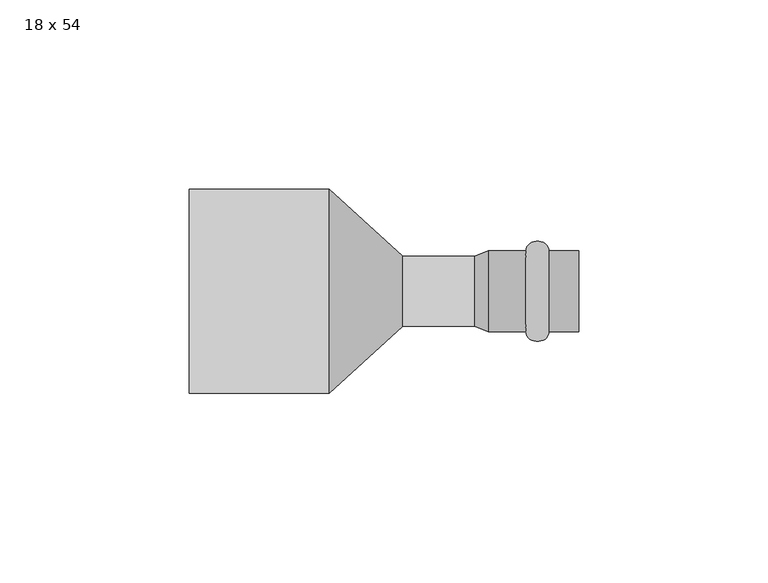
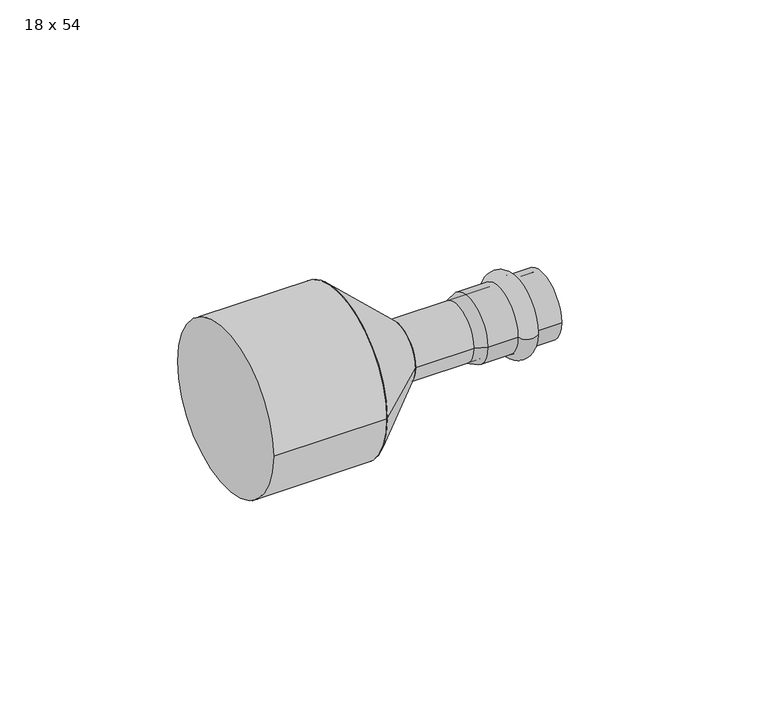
"""IFC4 building model written with IfcOpenShell, lengths in millimetres: pipe fitting geometry, РЕХАУ_Пресс Вставка переходная : 18 x 54."""

from ifc_helpers import new_model, si_unit, point, frame, origin, origin_2d, place, context, project, spatial, polyline, circle_curve, ellipse_curve, trimmed, segment, composite_curve, outline, extrude, source, transform, mapped, element, save
from ifc_brep_helpers import plane_surface, cylinder_surface, revolved_surface, advanced_brep


def pipe_fitting_18_x_54_be309751(model_context):
    return source(origin(), model_context, "Body", "SolidModel", [
        advanced_brep(
        [(95.1, 10.75, 0.0), (95.1, -10.75, 0.0), (89.0, -10.75, 0.0), (89.0, 10.75, 0.0)],
        [
            (0, 1, circle_curve(frame((95.1, 0.0, 0.0), z_axis=(1.0, 0.0, 0.0), x_axis=(0.0, -1.0, 0.0)), 10.75)),
            (1, 2),
            (2, 3, circle_curve(frame((89.0, 0.0, 0.0), z_axis=(-1.0, 0.0, 0.0), x_axis=(0.0, -1.0, 0.0)), 10.75)),
            (3, 0),
            (1, 0, circle_curve(frame((95.1, 0.0, 0.0), z_axis=(1.0, 0.0, 0.0), x_axis=(0.0, -1.0, 0.0)), 10.75)),
            (3, 2, circle_curve(frame((89.0, 0.0, 0.0), z_axis=(-1.0, 0.0, 0.0), x_axis=(0.0, -1.0, 0.0)), 10.75)),
            (2, 1, ellipse_curve(frame((92.05, -10.75, 0.0), z_axis=(0.0, 0.0, 1.0), x_axis=(1.0, 0.0, 0.0)), 3.05, 2.5)),
            (0, 3, ellipse_curve(frame((92.05, 10.75, 0.0), z_axis=(0.0, 0.0, 1.0), x_axis=(1.0, 0.0, 0.0)), 3.05, 2.5)),
        ],
        [
            revolved_surface(polyline([(89.0, -10.75, 0.0), (95.1, -10.75, 0.0)]), (76.0, 0.0, 0.0), (-1.0, 0.0, 0.0)),
            revolved_surface(trimmed(ellipse_curve(frame((92.05, -10.75, 0.0), z_axis=(0.0, 0.0, -1.0), x_axis=(1.0, 0.0, 0.0)), 3.05, 2.5), [point((95.1, -10.75, 0.0))], [point((89.0, -10.75, 0.0))], True, "CARTESIAN"), (76.0, 0.0, 0.0), (-1.0, 0.0, 0.0)),
        ],
        [
            (0, [[1, 2, 3, 4]]),
            (0, [[5, -4, 6, -2]]),
            (1, [[-3, 7, -1, 8]]),
            (1, [[-6, -8, -5, -7]]),
        ],
    ),
        advanced_brep(
        [(75.4662215, 9.25, 0.0), (75.4662215, -9.25, 0.0), (79.0, -10.75, 0.0), (79.0, 10.75, 0.0), (103.0, 9.25, 0.0), (103.0, -9.25, 0.0), (103.0, 10.75, 0.0), (103.0, -10.75, 0.0)],
        [
            (0, 1, circle_curve(frame((75.4662215, 0.0, 0.0), z_axis=(1.0, 0.0, 0.0), x_axis=(0.0, -1.0, 0.0)), 9.25)),
            (1, 2),
            (2, 3, circle_curve(frame((79.0, 0.0, 0.0), z_axis=(-1.0, 0.0, 0.0), x_axis=(0.0, -1.0, 0.0)), 10.75)),
            (3, 0),
            (1, 0, circle_curve(frame((75.4662215, 0.0, 0.0), z_axis=(1.0, 0.0, 0.0), x_axis=(0.0, -1.0, 0.0)), 9.25)),
            (3, 2, circle_curve(frame((79.0, 0.0, 0.0), z_axis=(-1.0, 0.0, 0.0), x_axis=(0.0, -1.0, 0.0)), 10.75)),
            (4, 5, circle_curve(frame((103.0, 0.0, 0.0), z_axis=(1.0, 0.0, 0.0), x_axis=(0.0, -1.0, 0.0)), 9.25)),
            (5, 1),
            (0, 4),
            (5, 4, circle_curve(frame((103.0, 0.0, 0.0), z_axis=(1.0, 0.0, 0.0), x_axis=(0.0, -1.0, 0.0)), 9.25)),
            (6, 7, circle_curve(frame((103.0, 0.0, 0.0), z_axis=(1.0, 0.0, 0.0), x_axis=(0.0, -1.0, 0.0)), 10.75)),
            (7, 5),
            (4, 6),
            (7, 6, circle_curve(frame((103.0, 0.0, 0.0), z_axis=(1.0, 0.0, 0.0), x_axis=(0.0, -1.0, 0.0)), 10.75)),
            (2, 7),
            (6, 3),
        ],
        [
            revolved_surface(polyline([(79.0, -10.75, 0.0), (75.4662215, -9.25, 0.0)]), (76.0, 0.0, 0.0), (-1.0, 0.0, 0.0)),
            revolved_surface(polyline([(75.4662215, -9.25, 0.0), (103.0, -9.25, 0.0)]), (76.0, 0.0, 0.0), (-1.0, 0.0, 0.0)),
            plane_surface(frame((103.0, 0.0, 0.0), z_axis=(1.0, 0.0, 0.0), x_axis=(0.0, -1.0, 0.0))),
            cylinder_surface(frame((76.0, 0.0, 0.0), z_axis=(-1.0, 0.0, 0.0), x_axis=(0.0, -1.0, 0.0)), 10.75),
        ],
        [
            (0, [[1, 2, 3, 4]]),
            (0, [[5, -4, 6, -2]]),
            (1, [[7, 8, -1, 9]]),
            (1, [[10, -9, -5, -8]]),
            (2, [[11, 12, -7, 13]]),
            (2, [[14, -13, -10, -12]]),
            (3, [[-3, 15, -11, 16]]),
            (3, [[-6, -16, -14, -15]]),
        ],
    ),
        extrude(outline(composite_curve([segment(trimmed(circle_curve(origin_2d(), 9.25), [point((-9.25, 0.0))], [point((9.25, 0.0))], False, "CARTESIAN"), True, "CONTINUOUS"), segment(trimmed(circle_curve(origin_2d(), 9.25), [point((9.25, 0.0))], [point((-9.25, 0.0))], False, "CARTESIAN"), True, "CONTINUOUS")], self_intersect=False)), frame((56.45, 0.0, 0.0), z_axis=(1.0, 0.0, 0.0), x_axis=(0.0, 1.0, 0.0)), (0.0, 0.0, 1.0), 22.55),
        advanced_brep(
        [(56.45, -9.25, 0.0), (56.45, 9.25, 0.0), (37.0, -27.0, 0.0), (37.0, 27.0, 0.0)],
        [
            (0, 1, circle_curve(frame((56.45, 0.0, 0.0), z_axis=(1.0, 0.0, 0.0), x_axis=(0.0, -1.0, 0.0)), 9.25)),
            (1, 0, circle_curve(frame((56.45, 0.0, 0.0), z_axis=(1.0, 0.0, 0.0), x_axis=(0.0, 1.0, 0.0)), 9.25)),
            (2, 3, circle_curve(frame((37.0, 0.0, 0.0), z_axis=(-1.0, 0.0, 0.0), x_axis=(0.0, 1.0, 0.0)), 27.0)),
            (3, 2, circle_curve(frame((37.0, 0.0, 0.0), z_axis=(-1.0, 0.0, 0.0), x_axis=(0.0, -1.0, 0.0)), 27.0)),
            (3, 1),
            (0, 2),
        ],
        [
            plane_surface(frame((56.45, 0.0, 0.0), z_axis=(1.0, 0.0, 0.0), x_axis=(0.0, 0.0, -1.0))),
            plane_surface(frame((37.0, 0.0, 0.0), z_axis=(-1.0, 0.0, 0.0), x_axis=(0.0, 0.0, -1.0))),
            revolved_surface(polyline([(56.45, -9.25000000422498, 0.0), (37.0, -27.0, 0.0)]), (66.5859155, 0.0, 0.0), (-1.0, 0.0, 0.0)),
            revolved_surface(polyline([(56.45, 9.25000000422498, 0.0), (37.0, 27.0, 0.0)]), (66.5859155, 0.0, 0.0), (-1.0, 0.0, 0.0)),
        ],
        [
            (0, [[1, 2]]),
            (1, [[3, 4]]),
            (2, [[-4, 5, -1, 6]]),
            (3, [[-3, -6, -2, -5]]),
        ],
    ),
        extrude(outline(composite_curve([segment(trimmed(circle_curve(origin_2d(), 27.0), [point((-27.0, 0.0))], [point((27.0, 0.0))], False, "CARTESIAN"), True, "CONTINUOUS"), segment(trimmed(circle_curve(origin_2d(), 27.0), [point((27.0, 0.0))], [point((-27.0, 0.0))], False, "CARTESIAN"), True, "CONTINUOUS")], self_intersect=False)), frame((0.0, 0.0, 0.0), z_axis=(1.0, 0.0, 0.0), x_axis=(0.0, 1.0, 0.0)), (0.0, 0.0, 1.0), 37.0),
    ])


if __name__ == "__main__":
    model = new_model("IFC4")
    model_context = context("Model", 3, world=origin())
    ifc_project = project(units=[si_unit("LENGTHUNIT", "METRE", prefix="MILLI")], contexts=[model_context])
    site = spatial("IfcSite", under=ifc_project)
    building = spatial("IfcBuilding", under=site)
    placement = place(None, origin())
    pipe_fitting_18_x_54_shape = pipe_fitting_18_x_54_be309751(model_context)
    element("IfcPipeFitting", 1, ObjectType="РЕХАУ_Пресс Вставка переходная : 18 x 54", at=placement, inside=building, context=model_context, shape_type="MappedRepresentation", body=[
        mapped(pipe_fitting_18_x_54_shape, transform((0.0, 0.0, 0.0), x_axis=(1.0, 0.0, 0.0), y_axis=(0.0, 1.0, 0.0), z_axis=(0.0, 0.0, 1.0))),
    ])
    save(model, "model.ifc")
